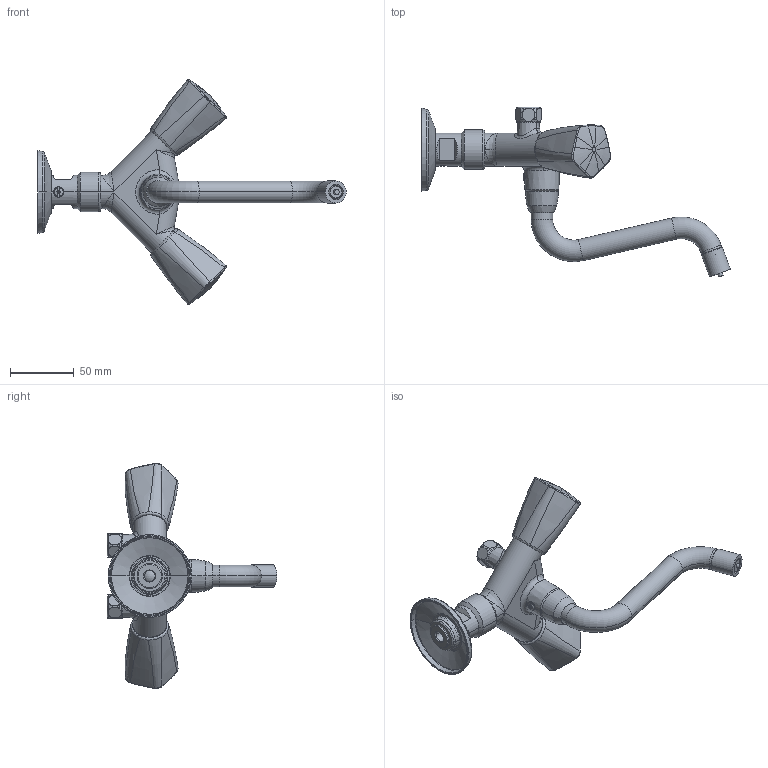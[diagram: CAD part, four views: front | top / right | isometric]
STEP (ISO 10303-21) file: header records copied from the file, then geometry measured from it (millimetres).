
FILE_DESCRIPTION((''),'2;1');
FILE_NAME('500770_ASM','2020-06-08T13:27:18',('LF994'),(''),'CREO PARAMETRIC BY PTC INC, 2018500','CREO PARAMETRIC BY PTC INC, 2018500','');
FILE_SCHEMA(('CONFIG_CONTROL_DESIGN'));
Length unit declared in the file: millimetre
Products named in the file (56): 600747; 607086; 504557_ASM; 607027; 607481; 607482; 603026; 601966; 603712; 601972; 600780; 600777; 600022; 604882; 501546_ASM; 600007_AF0; 600775_AF0; 607481_AF0; 607482_AF0; 600022_AF0; 603026_AF0; 603712_AF0; 600779_AF0; 600776_AF0; 600778_AF0; 600780_AF0; 600777_AF0; 604882_AF0; 500631_ASM; 600025; 600253; 600254; 600781; 600518; 600529; 601939; 605331; 606481; 600786_600787; 504693_536943_ASM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
Assembly tree (62 placements, depth 4):
  500770_ASM
    504557_ASM
      600747
      607086  x2
    501546_ASM
      607027
      607481
      607482
      603026
      601966
      603712
      601972
      600780
      600777
      600022
      604882
    500631_ASM
      600007_AF0
      600775_AF0
      607481_AF0
      607482_AF0
      600022_AF0
      603026_AF0
      603712_AF0
      600779_AF0
      600776_AF0
      600778_AF0
      600780_AF0
      600777_AF0
      604882_AF0
    600025
    600253  x2
    600254  x2
    600781  x2
    508742_536945_ASM
      600518
      600529
      601939  x2
      605331
      600025
      504693_536943_ASM
        606481
        600786_600787
      506405
    606505
    503932
    509581_ASM  x2
      616467
      608705
    505388_AF0_ASM
      607865_AF0
      606155
      607639
      600343
      607557
      607558
      606622_AF0
Bounding box: 242.61 x 133.49 x 176.83 mm (x, y, z)
Volume: 207495.6 mm3; surface area: 138715.5 mm2
Topology: 58 solids, 58 shells, 2881 faces, 7116 edges, 4329 vertices
Faces by surface type: plane 1048, cylinder 818, cone 453, torus 320, bspline 218, sphere 22, revolution 2
Entity records: 89875 total; most frequent: CARTESIAN_POINT 32586, DIRECTION 11986, ORIENTED_EDGE 11850, EDGE_CURVE 5925, AXIS2_PLACEMENT_3D 4856, VERTEX_POINT 3593, EDGE_LOOP 2584, FACE_OUTER_BOUND 2432
